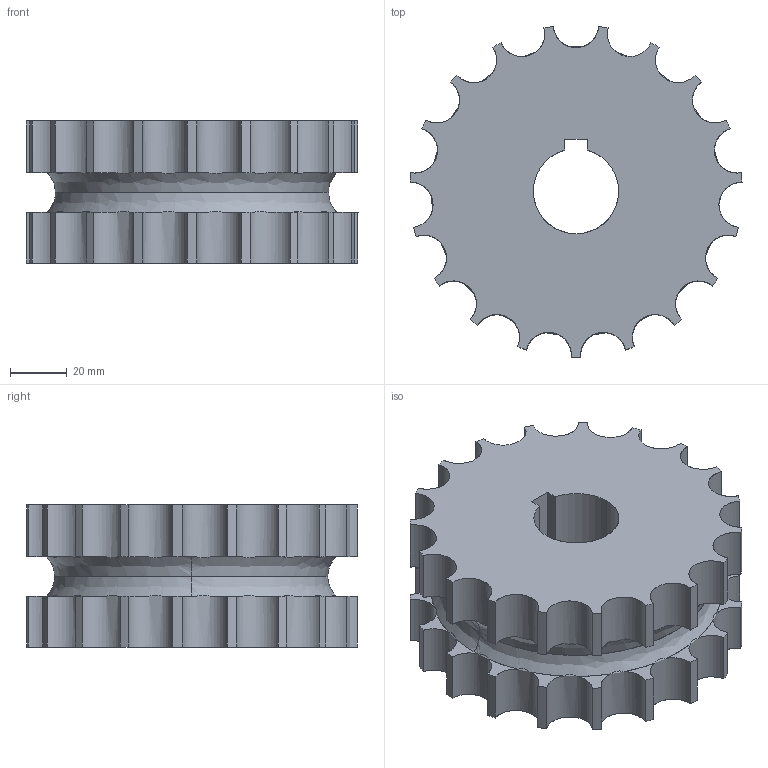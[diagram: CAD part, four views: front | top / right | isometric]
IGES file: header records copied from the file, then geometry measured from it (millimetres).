
Start section: SolidWorks IGES file using analytic representation for surfaces
Global section: file name: C:\Documents and Settings\URETIM3\Desktop\yeni katalog tolgay düzenli\D kataloðu\TEK PARÇALI PLASTÝK TAHRÝK DÝÞLÝSÝ\320 TI1 219.IGS; native system: SolidWorks 2006 by SolidWorks Corporation; preprocessor: SolidWorks 2006 by SolidWorks Corporation; author: URETIM3; date: 060912.144610; units: millimetre
Bounding box: 116.83 x 116.45 x 50 mm (x, y, z)
Surface area: 46447.9 mm2 (no closed solid volume)
Topology: 0 solids, 0 shells, 144 faces, 2416 edges, 2416 vertices
Faces by surface type: revolution 97, bspline 47
